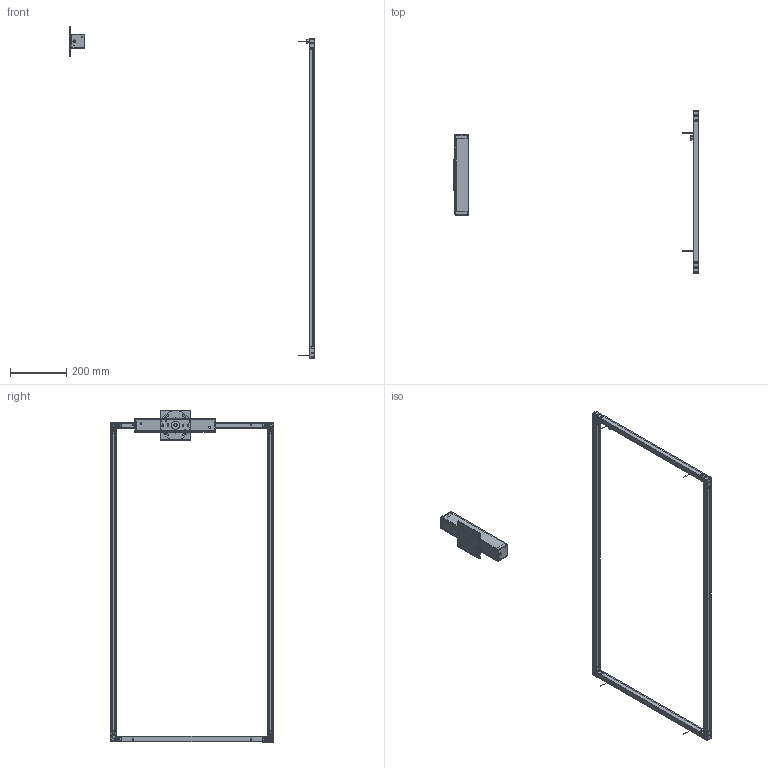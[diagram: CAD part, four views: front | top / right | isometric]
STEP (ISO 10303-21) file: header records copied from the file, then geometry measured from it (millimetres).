
FILE_DESCRIPTION (( 'STEP AP203' ), '1' );
FILE_NAME ('SPIGOLO pendant H.STEP', '2017-07-28T10:40:15', ( 'user' ), ( '' ), 'SwSTEP 2.0', 'SolidWorks 2016', '' );
FILE_SCHEMA (( 'CONFIG_CONTROL_DESIGN' ));
Length unit declared in the file: millimetre
Products named in the file (19): SPIGOLO pendant H; 051SPI701200 - PROF ESTR 20X20X500 CAVO; 010LIN700700_estruso rosone; schermo tru sospesa; 010LIN700800_tappo rosone dx; 052SPI700900_2; 010LIN701700_tappo rosone sx; 052SPI700300; ROSONE SPIGOLO usa; 049SPI000800_usa; 019COM000081; 052SPI700200_2; BLOCCACAVO STEAB ART 5100-7-08; 049SPI000200_usa; 010MYR007600_Square cover plate; 051SPI701100 - PROF ESTR 20X20X500 FORA; profili - spigolo_sospesa; 524LCY000001_Crossbar; 010LIN001200_staffa muro
Assembly tree (26 placements, depth 3):
  SPIGOLO pendant H
    profili - spigolo_sospesa  x2
    051SPI701200 - PROF ESTR 20X20X500 CAVO
    schermo tru sospesa  x2
    049SPI000800_usa  x2
      052SPI700900_2
      052SPI700300
    049SPI000200_usa  x2
      052SPI700200_2
      052SPI700300
    051SPI701100 - PROF ESTR 20X20X500 FORA
    ROSONE SPIGOLO usa
      010LIN001200_staffa muro
      010LIN700700_estruso rosone
      010LIN700800_tappo rosone dx
      010LIN701700_tappo rosone sx
    019COM000081  x4
    BLOCCACAVO STEAB ART 5100-7-08
    010MYR007600_Square cover plate
    524LCY000001_Crossbar
Bounding box: 876 x 579.9 x 1184.4 mm (x, y, z)
Volume: 669393 mm3; surface area: 746858.1 mm2
Topology: 25 solids, 25 shells, 5131 faces, 13649 edges, 8910 vertices
Faces by surface type: plane 2893, bspline 1016, cylinder 893, cone 158, torus 109, sphere 62
Entity records: 86180 total; most frequent: CARTESIAN_POINT 33961, ORIENTED_EDGE 11076, DIRECTION 9064, EDGE_CURVE 5538, VECTOR 3698, LINE 3698, VERTEX_POINT 3626, AXIS2_PLACEMENT_3D 2683
